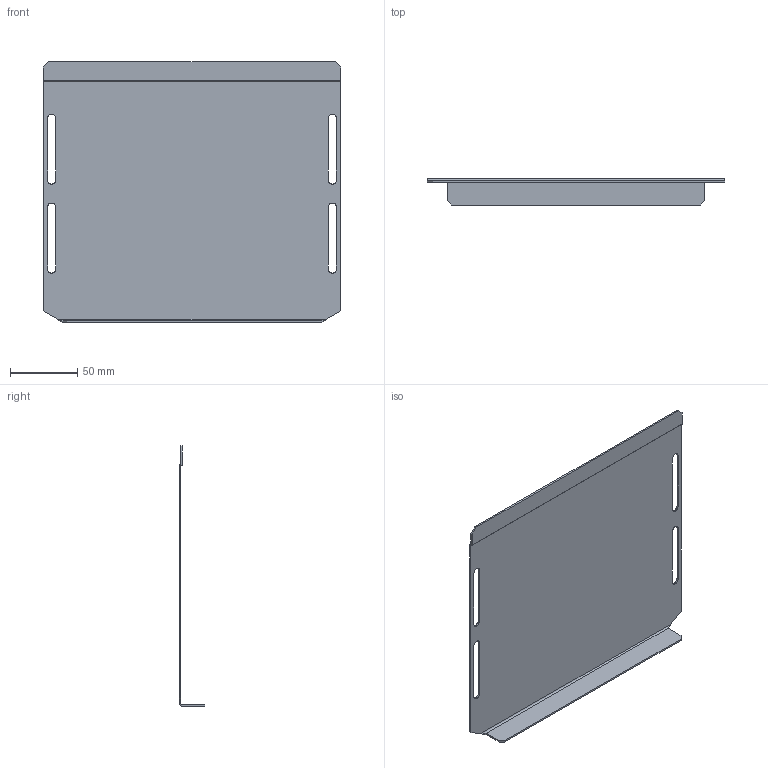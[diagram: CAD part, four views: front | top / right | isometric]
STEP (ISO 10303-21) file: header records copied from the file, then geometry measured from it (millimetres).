
FILE_DESCRIPTION (( 'STEP AP214' ), '1' );
FILE_NAME ('PKV 40 PH Ïàíåëü ïîäâèæíàÿ.STEP', '2021-05-24T10:02:51', ( '' ), ( '' ), 'SwSTEP 2.0', 'SolidWorks 2018', '' );
FILE_SCHEMA (( 'AUTOMOTIVE_DESIGN' ));
Length unit declared in the file: millimetre
Products named in the file (1): PKV 40 PH Ïàíåëü ïîäâèæíàÿ
Bounding box: 220.5 x 19 x 193.6 mm (x, y, z)
Volume: 53670.3 mm3; surface area: 90993.7 mm2
Topology: 1 solids, 1 shells, 52 faces, 130 edges, 80 vertices
Faces by surface type: plane 32, cylinder 18, bspline 2
Entity records: 1636 total; most frequent: CARTESIAN_POINT 345, ORIENTED_EDGE 260, DIRECTION 256, EDGE_CURVE 130, VECTOR 90, LINE 90, AXIS2_PLACEMENT_3D 83, VERTEX_POINT 80
